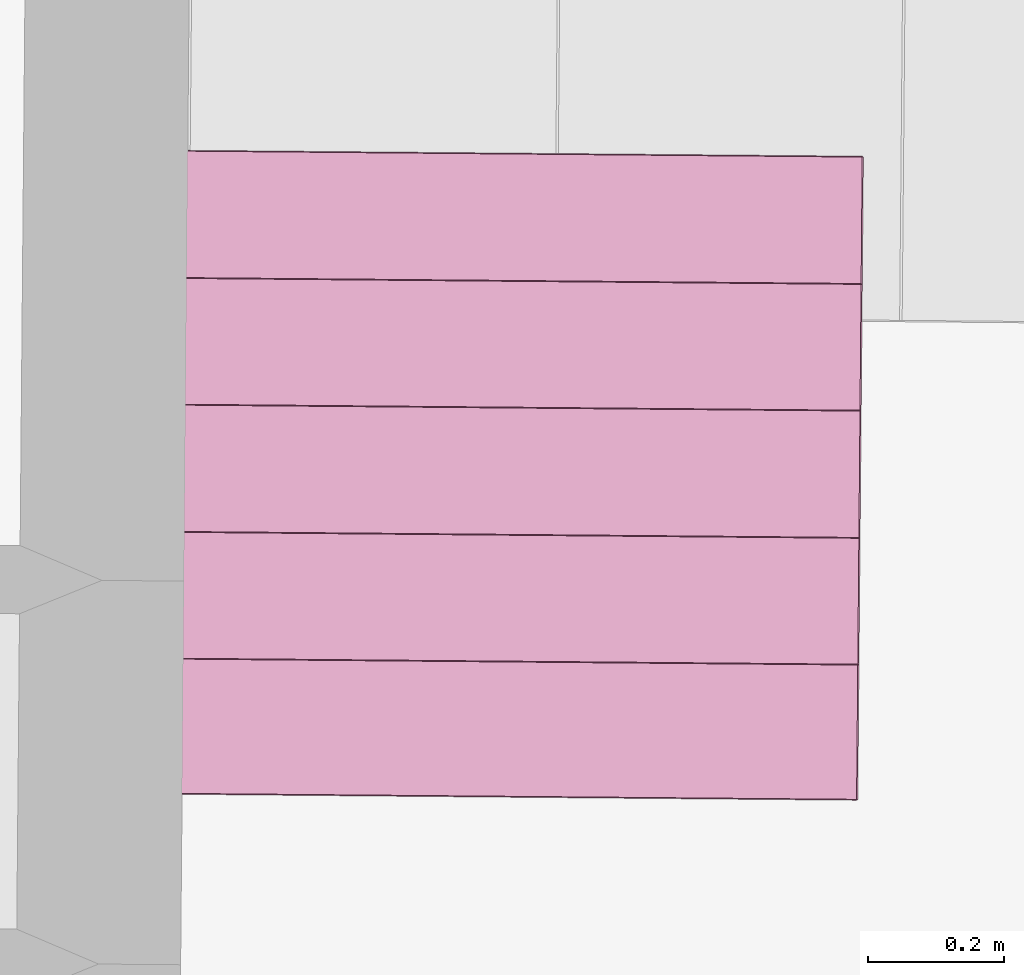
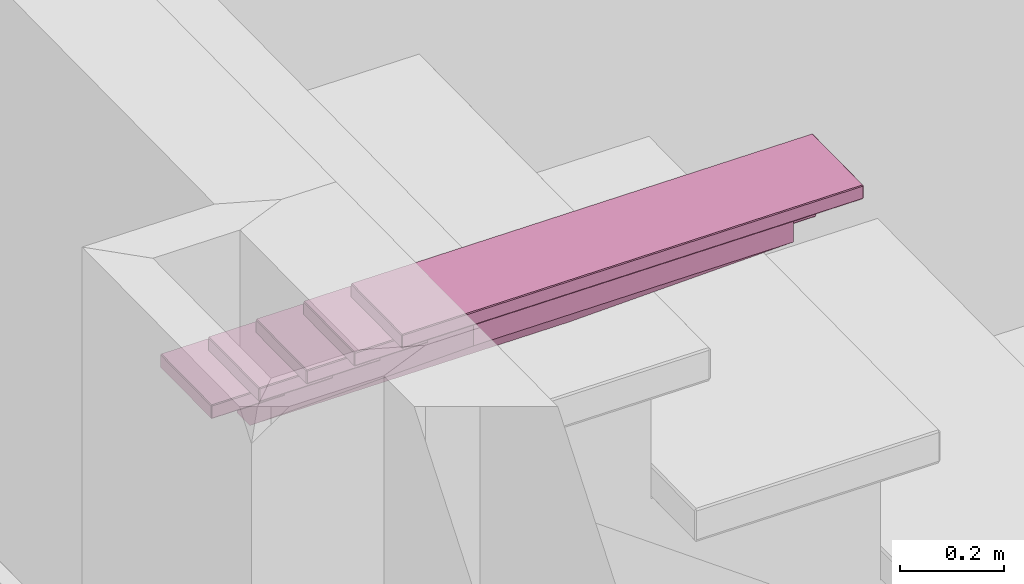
# One storey, part 4 of 7: 1 furniture element.
"""IFC4 building model written with IfcOpenShell, lengths in metres."""

from ifc_helpers import new_model, si_unit, direction, frame, origin_with_axes, place, context, project, spatial, polygons, type_object, element, save


model = new_model("IFC4")

# Units and contexts
model_context = context("Model", 3, precision=1e-05, world=origin_with_axes(), true_north=direction((-0.077, 0.997, 0.0)))
ifc_project = project(units=[si_unit("AREAUNIT", "SQUARE_METRE"), si_unit("LENGTHUNIT", "METRE")], contexts=[model_context])

# Site, building, storey, space
site_placement = place(None, origin_with_axes())
site = spatial("IfcSite", under=ifc_project, at=site_placement, Name="Site", CompositionType="ELEMENT")
building_placement = place(site_placement, origin_with_axes())
building = spatial("IfcBuilding", under=site, at=building_placement, Name="Building", CompositionType="ELEMENT")
storey_placement = place(building_placement, frame((0.0, 0.0, 2.86083245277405), z_axis=(0.0, 0.0, 1.0), x_axis=(1.0, 0.0, 0.0)))
storey = spatial("IfcBuildingStorey", under=building, at=storey_placement, Name="Story 1", CompositionType="ELEMENT", Elevation=2.86083245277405)
space_placement = place(storey_placement, frame((5.20392612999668, 0.0566384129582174, 0.0), z_axis=(0.0, 0.0, 1.0), x_axis=(1.0, 0.0, 0.0)))
space = spatial("IfcSpace", under=storey, at=space_placement, Name="011", CompositionType="ELEMENT")

# Furniture
furniture_type = type_object("IfcFurnitureType", Name="23cb4e9c-1382-41ba-935b-4a46ee92295f", AssemblyPlace="NOTDEFINED", PredefinedType="USERDEFINED")
furniture_placement = place(space_placement, frame((-3.17516283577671, 0.428728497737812, 1.96857523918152), z_axis=(0.0, 0.0, 0.99999999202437), x_axis=(0.00878513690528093, 0.999961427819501, 0.0)))
element("IfcFurniture", 1, at=furniture_placement, inside=space, type_object=furniture_type, Name="STAIRS", ObjectType="STAIRS", PredefinedType="USERDEFINED", context=model_context, shape_type="Tessellation", body=[
    polygons([(0.4721, 0.5092, -0.219), (0.4721, -0.5092, -0.219), (0.4721, 0.5092, -0.2475), (0.4721, -0.5092, -0.2475), (0.4721, 0.5092, -0.2475), (0.4721, -0.5092, -0.219), (0.4707, -0.511, -0.219), (0.2739, -0.511, -0.219), (0.4707, -0.511, -0.2475), (0.2739, -0.511, -0.2475), (0.4707, -0.511, -0.2475), (0.2739, -0.511, -0.219), (0.2726, -0.5092, -0.219), (0.2726, 0.5092, -0.219), (0.2726, -0.5092, -0.2475), (0.2726, 0.5092, -0.2475), (0.2726, -0.5092, -0.2475), (0.2726, 0.5092, -0.219), (0.2739, 0.511, -0.219), (0.4707, 0.511, -0.219), (0.2739, 0.511, -0.2475), (0.4707, 0.511, -0.2475), (0.2739, 0.511, -0.2475), (0.4707, 0.511, -0.219), (0.4707, -0.5092, -0.2497), (0.2739, -0.5092, -0.2497), (0.4707, 0.5092, -0.2497), (0.2739, 0.5092, -0.2497), (0.4707, 0.5092, -0.2497), (0.2739, -0.5092, -0.2497), (0.4707, -0.5092, -0.2168), (0.4707, 0.5092, -0.2168), (0.2739, -0.5092, -0.2168), (0.2739, 0.5092, -0.2168), (0.2739, -0.5092, -0.2168), (0.4707, 0.5092, -0.2168), (0.4707, 0.511, -0.2475), (0.4721, 0.5092, -0.2475), (0.4707, 0.5092, -0.2497), (0.4707, -0.511, -0.2475), (0.4707, -0.5092, -0.2497), (0.4721, -0.5092, -0.2475), (0.2726, -0.5092, -0.2475), (0.2739, -0.5092, -0.2497), (0.2739, -0.511, -0.2475), (0.2726, 0.5092, -0.2475), (0.2739, 0.511, -0.2475), (0.2739, 0.5092, -0.2497), (0.4707, 0.5092, -0.2168), (0.4721, 0.5092, -0.219), (0.4707, 0.511, -0.219), (0.4707, -0.5092, -0.2168), (0.4707, -0.511, -0.219), (0.4721, -0.5092, -0.219), (0.2739, -0.5092, -0.2168), (0.2726, -0.5092, -0.219), (0.2739, -0.511, -0.219), (0.2739, 0.5092, -0.2168), (0.2739, 0.511, -0.219), (0.2726, 0.5092, -0.219), (0.4707, 0.5092, -0.2497), (0.4721, 0.5092, -0.2475), (0.4707, -0.5092, -0.2497), (0.4721, -0.5092, -0.2475), (0.4707, -0.5092, -0.2497), (0.4721, 0.5092, -0.2475), (0.4707, -0.511, -0.2475), (0.4721, -0.5092, -0.2475), (0.4707, -0.511, -0.219), (0.4721, -0.5092, -0.219), (0.4707, -0.511, -0.219), (0.4721, -0.5092, -0.2475), (0.4707, -0.5092, -0.2168), (0.4721, -0.5092, -0.219), (0.4707, 0.5092, -0.2168), (0.4721, 0.5092, -0.219), (0.4707, 0.5092, -0.2168), (0.4721, -0.5092, -0.219), (0.4707, 0.511, -0.219), (0.4721, 0.5092, -0.219), (0.4707, 0.511, -0.2475), (0.4721, 0.5092, -0.2475), (0.4707, 0.511, -0.2475), (0.4721, 0.5092, -0.219), (0.4707, -0.5092, -0.2497), (0.4707, -0.511, -0.2475), (0.2739, -0.5092, -0.2497), (0.2739, -0.511, -0.2475), (0.2739, -0.5092, -0.2497), (0.4707, -0.511, -0.2475), (0.2726, -0.5092, -0.2475), (0.2739, -0.511, -0.2475), (0.2726, -0.5092, -0.219), (0.2739, -0.511, -0.219), (0.2726, -0.5092, -0.219), (0.2739, -0.511, -0.2475), (0.2739, -0.5092, -0.2168), (0.2739, -0.511, -0.219), (0.4707, -0.5092, -0.2168), (0.4707, -0.511, -0.219), (0.4707, -0.5092, -0.2168), (0.2739, -0.511, -0.219), (0.2739, -0.5092, -0.2497), (0.2726, -0.5092, -0.2475), (0.2739, 0.5092, -0.2497), (0.2726, 0.5092, -0.2475), (0.2739, 0.5092, -0.2497), (0.2726, -0.5092, -0.2475), (0.2739, 0.511, -0.2475), (0.2726, 0.5092, -0.2475), (0.2739, 0.511, -0.219), (0.2726, 0.5092, -0.219), (0.2739, 0.511, -0.219), (0.2726, 0.5092, -0.2475), (0.2739, 0.5092, -0.2168), (0.2726, 0.5092, -0.219), (0.2739, -0.5092, -0.2168), (0.2726, -0.5092, -0.219), (0.2739, -0.5092, -0.2168), (0.2726, 0.5092, -0.219), (0.2739, 0.5092, -0.2497), (0.2739, 0.511, -0.2475), (0.4707, 0.5092, -0.2497), (0.4707, 0.511, -0.2475), (0.4707, 0.5092, -0.2497), (0.2739, 0.511, -0.2475), (0.4707, 0.5092, -0.2168), (0.4707, 0.511, -0.219), (0.2739, 0.5092, -0.2168), (0.2739, 0.511, -0.219), (0.2739, 0.5092, -0.2168), (0.4707, 0.511, -0.219), (0.2854, 0.5092, -0.065), (0.2854, -0.5092, -0.065), (0.2854, 0.5092, -0.0935), (0.2854, -0.5092, -0.0935), (0.2854, 0.5092, -0.0935), (0.2854, -0.5092, -0.065), (0.2841, -0.511, -0.065), (0.0873, -0.511, -0.065), (0.2841, -0.511, -0.0935), (0.0873, -0.511, -0.0935), (0.2841, -0.511, -0.0935), (0.0873, -0.511, -0.065), (0.086, -0.5092, -0.065), (0.086, 0.5092, -0.065), (0.086, -0.5092, -0.0935), (0.086, 0.5092, -0.0935), (0.086, -0.5092, -0.0935), (0.086, 0.5092, -0.065), (0.0873, 0.511, -0.065), (0.2841, 0.511, -0.065), (0.0873, 0.511, -0.0935), (0.2841, 0.511, -0.0935), (0.0873, 0.511, -0.0935), (0.2841, 0.511, -0.065), (0.2841, -0.5092, -0.0957), (0.0873, -0.5092, -0.0957), (0.2841, 0.5092, -0.0957), (0.0873, 0.5092, -0.0957), (0.2841, 0.5092, -0.0957), (0.0873, -0.5092, -0.0957), (0.2841, -0.5092, -0.0628), (0.2841, 0.5092, -0.0628), (0.0873, -0.5092, -0.0628), (0.0873, 0.5092, -0.0628), (0.0873, -0.5092, -0.0628), (0.2841, 0.5092, -0.0628), (0.2841, 0.511, -0.0935), (0.2854, 0.5092, -0.0935), (0.2841, 0.5092, -0.0957), (0.2841, -0.511, -0.0935), (0.2841, -0.5092, -0.0957), (0.2854, -0.5092, -0.0935), (0.086, -0.5092, -0.0935), (0.0873, -0.5092, -0.0957), (0.0873, -0.511, -0.0935), (0.086, 0.5092, -0.0935), (0.0873, 0.511, -0.0935), (0.0873, 0.5092, -0.0957), (0.2841, 0.5092, -0.0628), (0.2854, 0.5092, -0.065), (0.2841, 0.511, -0.065), (0.2841, -0.5092, -0.0628), (0.2841, -0.511, -0.065), (0.2854, -0.5092, -0.065), (0.0873, -0.5092, -0.0628), (0.086, -0.5092, -0.065), (0.0873, -0.511, -0.065), (0.0873, 0.5092, -0.0628), (0.0873, 0.511, -0.065), (0.086, 0.5092, -0.065), (0.2841, 0.5092, -0.0957), (0.2854, 0.5092, -0.0935), (0.2841, -0.5092, -0.0957), (0.2854, -0.5092, -0.0935), (0.2841, -0.5092, -0.0957), (0.2854, 0.5092, -0.0935), (0.2841, -0.511, -0.0935), (0.2854, -0.5092, -0.0935), (0.2841, -0.511, -0.065), (0.2854, -0.5092, -0.065), (0.2841, -0.511, -0.065), (0.2854, -0.5092, -0.0935), (0.2841, -0.5092, -0.0628), (0.2854, -0.5092, -0.065), (0.2841, 0.5092, -0.0628), (0.2854, 0.5092, -0.065), (0.2841, 0.5092, -0.0628), (0.2854, -0.5092, -0.065), (0.2841, 0.511, -0.065), (0.2854, 0.5092, -0.065), (0.2841, 0.511, -0.0935), (0.2854, 0.5092, -0.0935), (0.2841, 0.511, -0.0935), (0.2854, 0.5092, -0.065), (0.2841, -0.5092, -0.0957), (0.2841, -0.511, -0.0935), (0.0873, -0.5092, -0.0957), (0.0873, -0.511, -0.0935), (0.0873, -0.5092, -0.0957), (0.2841, -0.511, -0.0935), (0.086, -0.5092, -0.0935), (0.0873, -0.511, -0.0935), (0.086, -0.5092, -0.065), (0.0873, -0.511, -0.065), (0.086, -0.5092, -0.065), (0.0873, -0.511, -0.0935), (0.0873, -0.5092, -0.0628), (0.0873, -0.511, -0.065), (0.2841, -0.5092, -0.0628), (0.2841, -0.511, -0.065), (0.2841, -0.5092, -0.0628), (0.0873, -0.511, -0.065), (0.0873, -0.5092, -0.0957), (0.086, -0.5092, -0.0935), (0.0873, 0.5092, -0.0957), (0.086, 0.5092, -0.0935), (0.0873, 0.5092, -0.0957), (0.086, -0.5092, -0.0935), (0.0873, 0.511, -0.0935), (0.086, 0.5092, -0.0935), (0.0873, 0.511, -0.065), (0.086, 0.5092, -0.065), (0.0873, 0.511, -0.065), (0.086, 0.5092, -0.0935), (0.0873, 0.5092, -0.0628), (0.086, 0.5092, -0.065), (0.0873, -0.5092, -0.0628), (0.086, -0.5092, -0.065), (0.0873, -0.5092, -0.0628), (0.086, 0.5092, -0.065), (0.0873, 0.5092, -0.0957), (0.0873, 0.511, -0.0935), (0.2841, 0.5092, -0.0957), (0.2841, 0.511, -0.0935), (0.2841, 0.5092, -0.0957), (0.0873, 0.511, -0.0935), (0.2841, 0.5092, -0.0628), (0.2841, 0.511, -0.065), (0.0873, 0.5092, -0.0628), (0.0873, 0.511, -0.065), (0.0873, 0.5092, -0.0628), (0.2841, 0.511, -0.065), (0.0997, 0.5092, 0.09), (0.0997, -0.5092, 0.09), (0.0997, 0.5092, 0.0615), (0.0997, -0.5092, 0.0615), (0.0997, 0.5092, 0.0615), (0.0997, -0.5092, 0.09), (0.0984, -0.511, 0.09), (-0.0984, -0.511, 0.09), (0.0984, -0.511, 0.0615), (-0.0984, -0.511, 0.0615), (0.0984, -0.511, 0.0615), (-0.0984, -0.511, 0.09), (-0.0998, -0.5092, 0.09), (-0.0998, 0.5092, 0.09), (-0.0998, -0.5092, 0.0615), (-0.0998, 0.5092, 0.0615), (-0.0998, -0.5092, 0.0615), (-0.0998, 0.5092, 0.09), (-0.0984, 0.511, 0.09), (0.0984, 0.511, 0.09), (-0.0984, 0.511, 0.0615), (0.0984, 0.511, 0.0615), (-0.0984, 0.511, 0.0615), (0.0984, 0.511, 0.09), (0.0984, -0.5092, 0.0593), (-0.0984, -0.5092, 0.0593), (0.0984, 0.5092, 0.0593), (-0.0984, 0.5092, 0.0593), (0.0984, 0.5092, 0.0593), (-0.0984, -0.5092, 0.0593), (0.0984, -0.5092, 0.0922), (0.0984, 0.5092, 0.0922), (-0.0984, -0.5092, 0.0922), (-0.0984, 0.5092, 0.0922), (-0.0984, -0.5092, 0.0922), (0.0984, 0.5092, 0.0922), (0.0984, 0.511, 0.0615), (0.0997, 0.5092, 0.0615), (0.0984, 0.5092, 0.0593), (0.0984, -0.511, 0.0615), (0.0984, -0.5092, 0.0593), (0.0997, -0.5092, 0.0615), (-0.0998, -0.5092, 0.0615), (-0.0984, -0.5092, 0.0593), (-0.0984, -0.511, 0.0615), (-0.0998, 0.5092, 0.0615), (-0.0984, 0.511, 0.0615), (-0.0984, 0.5092, 0.0593), (0.0984, 0.5092, 0.0922), (0.0997, 0.5092, 0.09), (0.0984, 0.511, 0.09), (0.0984, -0.5092, 0.0922), (0.0984, -0.511, 0.09), (0.0997, -0.5092, 0.09), (-0.0984, -0.5092, 0.0922), (-0.0998, -0.5092, 0.09), (-0.0984, -0.511, 0.09), (-0.0984, 0.5092, 0.0922), (-0.0984, 0.511, 0.09), (-0.0998, 0.5092, 0.09), (0.0984, 0.5092, 0.0593), (0.0997, 0.5092, 0.0615), (0.0984, -0.5092, 0.0593), (0.0997, -0.5092, 0.0615), (0.0984, -0.5092, 0.0593), (0.0997, 0.5092, 0.0615), (0.0984, -0.511, 0.0615), (0.0997, -0.5092, 0.0615), (0.0984, -0.511, 0.09), (0.0997, -0.5092, 0.09), (0.0984, -0.511, 0.09), (0.0997, -0.5092, 0.0615), (0.0984, -0.5092, 0.0922), (0.0997, -0.5092, 0.09), (0.0984, 0.5092, 0.0922), (0.0997, 0.5092, 0.09), (0.0984, 0.5092, 0.0922), (0.0997, -0.5092, 0.09), (0.0984, 0.511, 0.09), (0.0997, 0.5092, 0.09), (0.0984, 0.511, 0.0615), (0.0997, 0.5092, 0.0615), (0.0984, 0.511, 0.0615), (0.0997, 0.5092, 0.09), (0.0984, -0.5092, 0.0593), (0.0984, -0.511, 0.0615), (-0.0984, -0.5092, 0.0593), (-0.0984, -0.511, 0.0615), (-0.0984, -0.5092, 0.0593), (0.0984, -0.511, 0.0615), (-0.0998, -0.5092, 0.0615), (-0.0984, -0.511, 0.0615), (-0.0998, -0.5092, 0.09), (-0.0984, -0.511, 0.09), (-0.0998, -0.5092, 0.09), (-0.0984, -0.511, 0.0615), (-0.0984, -0.5092, 0.0922), (-0.0984, -0.511, 0.09), (0.0984, -0.5092, 0.0922), (0.0984, -0.511, 0.09), (0.0984, -0.5092, 0.0922), (-0.0984, -0.511, 0.09), (-0.0984, -0.5092, 0.0593), (-0.0998, -0.5092, 0.0615), (-0.0984, 0.5092, 0.0593), (-0.0998, 0.5092, 0.0615), (-0.0984, 0.5092, 0.0593), (-0.0998, -0.5092, 0.0615), (-0.0984, 0.511, 0.0615), (-0.0998, 0.5092, 0.0615), (-0.0984, 0.511, 0.09), (-0.0998, 0.5092, 0.09), (-0.0984, 0.511, 0.09), (-0.0998, 0.5092, 0.0615), (-0.0984, 0.5092, 0.0922), (-0.0998, 0.5092, 0.09), (-0.0984, -0.5092, 0.0922), (-0.0998, -0.5092, 0.09), (-0.0984, -0.5092, 0.0922), (-0.0998, 0.5092, 0.09), (-0.0984, 0.5092, 0.0593), (-0.0984, 0.511, 0.0615), (0.0984, 0.5092, 0.0593), (0.0984, 0.511, 0.0615), (0.0984, 0.5092, 0.0593), (-0.0984, 0.511, 0.0615), (0.0984, 0.5092, 0.0922), (0.0984, 0.511, 0.09), (-0.0984, 0.5092, 0.0922), (-0.0984, 0.511, 0.09), (-0.0984, 0.5092, 0.0922), (0.0984, 0.511, 0.09), (-0.0868, 0.5092, 0.2456), (-0.0868, -0.5092, 0.2456), (-0.0868, 0.5092, 0.2171), (-0.0868, -0.5092, 0.2171), (-0.0868, 0.5092, 0.2171), (-0.0868, -0.5092, 0.2456), (-0.0881, -0.511, 0.2456), (-0.2849, -0.511, 0.2456), (-0.0881, -0.511, 0.2171), (-0.2849, -0.511, 0.2171), (-0.0881, -0.511, 0.2171), (-0.2849, -0.511, 0.2456), (-0.2863, -0.5092, 0.2456), (-0.2863, 0.5092, 0.2456), (-0.2863, -0.5092, 0.2171), (-0.2863, 0.5092, 0.2171), (-0.2863, -0.5092, 0.2171), (-0.2863, 0.5092, 0.2456), (-0.2849, 0.511, 0.2456), (-0.0881, 0.511, 0.2456), (-0.2849, 0.511, 0.2171), (-0.0881, 0.511, 0.2171), (-0.2849, 0.511, 0.2171), (-0.0881, 0.511, 0.2456), (-0.0881, -0.5092, 0.2149), (-0.2849, -0.5092, 0.2149), (-0.0881, 0.5092, 0.2149), (-0.2849, 0.5092, 0.2149), (-0.0881, 0.5092, 0.2149), (-0.2849, -0.5092, 0.2149), (-0.0881, -0.5092, 0.2478), (-0.0881, 0.5092, 0.2478), (-0.2849, -0.5092, 0.2478), (-0.2849, 0.5092, 0.2478), (-0.2849, -0.5092, 0.2478), (-0.0881, 0.5092, 0.2478), (-0.0881, 0.511, 0.2171), (-0.0868, 0.5092, 0.2171), (-0.0881, 0.5092, 0.2149), (-0.0881, -0.511, 0.2171), (-0.0881, -0.5092, 0.2149), (-0.0868, -0.5092, 0.2171), (-0.2863, -0.5092, 0.2171), (-0.2849, -0.5092, 0.2149), (-0.2849, -0.511, 0.2171), (-0.2863, 0.5092, 0.2171), (-0.2849, 0.511, 0.2171), (-0.2849, 0.5092, 0.2149), (-0.0881, 0.5092, 0.2478), (-0.0868, 0.5092, 0.2456), (-0.0881, 0.511, 0.2456), (-0.0881, -0.5092, 0.2478), (-0.0881, -0.511, 0.2456), (-0.0868, -0.5092, 0.2456), (-0.2849, -0.5092, 0.2478), (-0.2863, -0.5092, 0.2456), (-0.2849, -0.511, 0.2456), (-0.2849, 0.5092, 0.2478), (-0.2849, 0.511, 0.2456), (-0.2863, 0.5092, 0.2456), (-0.0881, 0.5092, 0.2149), (-0.0868, 0.5092, 0.2171), (-0.0881, -0.5092, 0.2149), (-0.0868, -0.5092, 0.2171), (-0.0881, -0.5092, 0.2149), (-0.0868, 0.5092, 0.2171), (-0.0881, -0.511, 0.2171), (-0.0868, -0.5092, 0.2171), (-0.0881, -0.511, 0.2456), (-0.0868, -0.5092, 0.2456), (-0.0881, -0.511, 0.2456), (-0.0868, -0.5092, 0.2171), (-0.0881, -0.5092, 0.2478), (-0.0868, -0.5092, 0.2456), (-0.0881, 0.5092, 0.2478), (-0.0868, 0.5092, 0.2456), (-0.0881, 0.5092, 0.2478), (-0.0868, -0.5092, 0.2456), (-0.0881, 0.511, 0.2456), (-0.0868, 0.5092, 0.2456), (-0.0881, 0.511, 0.2171), (-0.0868, 0.5092, 0.2171), (-0.0881, 0.511, 0.2171), (-0.0868, 0.5092, 0.2456), (-0.0881, -0.5092, 0.2149), (-0.0881, -0.511, 0.2171), (-0.2849, -0.5092, 0.2149), (-0.2849, -0.511, 0.2171), (-0.2849, -0.5092, 0.2149), (-0.0881, -0.511, 0.2171), (-0.2863, -0.5092, 0.2171), (-0.2849, -0.511, 0.2171), (-0.2863, -0.5092, 0.2456), (-0.2849, -0.511, 0.2456), (-0.2863, -0.5092, 0.2456), (-0.2849, -0.511, 0.2171), (-0.2849, -0.5092, 0.2478), (-0.2849, -0.511, 0.2456), (-0.0881, -0.5092, 0.2478), (-0.0881, -0.511, 0.2456), (-0.0881, -0.5092, 0.2478), (-0.2849, -0.511, 0.2456), (-0.2849, -0.5092, 0.2149), (-0.2863, -0.5092, 0.2171), (-0.2849, 0.5092, 0.2149), (-0.2863, 0.5092, 0.2171), (-0.2849, 0.5092, 0.2149), (-0.2863, -0.5092, 0.2171), (-0.2849, 0.511, 0.2171), (-0.2863, 0.5092, 0.2171), (-0.2849, 0.511, 0.2456), (-0.2863, 0.5092, 0.2456), (-0.2849, 0.511, 0.2456), (-0.2863, 0.5092, 0.2171), (-0.2849, 0.5092, 0.2478), (-0.2863, 0.5092, 0.2456), (-0.2849, -0.5092, 0.2478), (-0.2863, -0.5092, 0.2456), (-0.2849, -0.5092, 0.2478), (-0.2863, 0.5092, 0.2456), (-0.2849, 0.5092, 0.2149), (-0.2849, 0.511, 0.2171), (-0.0881, 0.5092, 0.2149), (-0.0881, 0.511, 0.2171), (-0.0881, 0.5092, 0.2149), (-0.2849, 0.511, 0.2171), (-0.0881, 0.5092, 0.2478), (-0.0881, 0.511, 0.2456), (-0.2849, 0.5092, 0.2478), (-0.2849, 0.511, 0.2456), (-0.2849, 0.5092, 0.2478), (-0.0881, 0.511, 0.2456), (-0.2726, 0.5092, 0.4006), (-0.2726, -0.5092, 0.4006), (-0.2726, 0.5092, 0.3721), (-0.2726, -0.5092, 0.3721), (-0.2726, 0.5092, 0.3721), (-0.2726, -0.5092, 0.4006), (-0.2739, -0.511, 0.4006), (-0.4707, -0.511, 0.4006), (-0.2739, -0.511, 0.3721), (-0.4707, -0.511, 0.3721), (-0.2739, -0.511, 0.3721), (-0.4707, -0.511, 0.4006), (-0.4721, -0.5092, 0.4006), (-0.4721, 0.5092, 0.4006), (-0.4721, -0.5092, 0.3721), (-0.4721, 0.5092, 0.3721), (-0.4721, -0.5092, 0.3721), (-0.4721, 0.5092, 0.4006), (-0.4707, 0.511, 0.4006), (-0.2739, 0.511, 0.4006), (-0.4707, 0.511, 0.3721), (-0.2739, 0.511, 0.3721), (-0.4707, 0.511, 0.3721), (-0.2739, 0.511, 0.4006), (-0.2739, -0.5092, 0.3699), (-0.4707, -0.5092, 0.3699), (-0.2739, 0.5092, 0.3699), (-0.4707, 0.5092, 0.3699), (-0.2739, 0.5092, 0.3699), (-0.4707, -0.5092, 0.3699), (-0.2739, -0.5092, 0.4028), (-0.2739, 0.5092, 0.4028), (-0.4707, -0.5092, 0.4028), (-0.4707, 0.5092, 0.4028), (-0.4707, -0.5092, 0.4028), (-0.2739, 0.5092, 0.4028), (-0.2739, 0.511, 0.3721), (-0.2726, 0.5092, 0.3721), (-0.2739, 0.5092, 0.3699), (-0.2739, -0.511, 0.3721), (-0.2739, -0.5092, 0.3699), (-0.2726, -0.5092, 0.3721), (-0.4721, -0.5092, 0.3721), (-0.4707, -0.5092, 0.3699), (-0.4707, -0.511, 0.3721), (-0.4721, 0.5092, 0.3721), (-0.4707, 0.511, 0.3721), (-0.4707, 0.5092, 0.3699), (-0.2739, 0.5092, 0.4028), (-0.2726, 0.5092, 0.4006), (-0.2739, 0.511, 0.4006), (-0.2739, -0.5092, 0.4028), (-0.2739, -0.511, 0.4006), (-0.2726, -0.5092, 0.4006), (-0.4707, -0.5092, 0.4028), (-0.4721, -0.5092, 0.4006), (-0.4707, -0.511, 0.4006), (-0.4707, 0.5092, 0.4028), (-0.4707, 0.511, 0.4006), (-0.4721, 0.5092, 0.4006), (-0.2739, 0.5092, 0.3699), (-0.2726, 0.5092, 0.3721), (-0.2739, -0.5092, 0.3699), (-0.2726, -0.5092, 0.3721), (-0.2739, -0.5092, 0.3699), (-0.2726, 0.5092, 0.3721), (-0.2739, -0.511, 0.3721), (-0.2726, -0.5092, 0.3721), (-0.2739, -0.511, 0.4006), (-0.2726, -0.5092, 0.4006), (-0.2739, -0.511, 0.4006), (-0.2726, -0.5092, 0.3721), (-0.2739, -0.5092, 0.4028), (-0.2726, -0.5092, 0.4006), (-0.2739, 0.5092, 0.4028), (-0.2726, 0.5092, 0.4006), (-0.2739, 0.5092, 0.4028), (-0.2726, -0.5092, 0.4006), (-0.2739, 0.511, 0.4006), (-0.2726, 0.5092, 0.4006), (-0.2739, 0.511, 0.3721), (-0.2726, 0.5092, 0.3721), (-0.2739, 0.511, 0.3721), (-0.2726, 0.5092, 0.4006), (-0.2739, -0.5092, 0.3699), (-0.2739, -0.511, 0.3721), (-0.4707, -0.5092, 0.3699), (-0.4707, -0.511, 0.3721), (-0.4707, -0.5092, 0.3699), (-0.2739, -0.511, 0.3721), (-0.4721, -0.5092, 0.3721), (-0.4707, -0.511, 0.3721), (-0.4721, -0.5092, 0.4006), (-0.4707, -0.511, 0.4006), (-0.4721, -0.5092, 0.4006), (-0.4707, -0.511, 0.3721), (-0.4707, -0.5092, 0.4028), (-0.4707, -0.511, 0.4006), (-0.2739, -0.5092, 0.4028), (-0.2739, -0.511, 0.4006), (-0.2739, -0.5092, 0.4028), (-0.4707, -0.511, 0.4006), (-0.4707, -0.5092, 0.3699), (-0.4721, -0.5092, 0.3721), (-0.4707, 0.5092, 0.3699), (-0.4721, 0.5092, 0.3721), (-0.4707, 0.5092, 0.3699), (-0.4721, -0.5092, 0.3721), (-0.4707, 0.511, 0.3721), (-0.4721, 0.5092, 0.3721), (-0.4707, 0.511, 0.4006), (-0.4721, 0.5092, 0.4006), (-0.4707, 0.511, 0.4006), (-0.4721, 0.5092, 0.3721), (-0.4707, 0.5092, 0.4028), (-0.4721, 0.5092, 0.4006), (-0.4707, -0.5092, 0.4028), (-0.4721, -0.5092, 0.4006), (-0.4707, -0.5092, 0.4028), (-0.4721, 0.5092, 0.4006), (-0.4707, 0.5092, 0.3699), (-0.4707, 0.511, 0.3721), (-0.2739, 0.5092, 0.3699), (-0.2739, 0.511, 0.3721), (-0.2739, 0.5092, 0.3699), (-0.4707, 0.511, 0.3721), (-0.2739, 0.5092, 0.4028), (-0.2739, 0.511, 0.4006), (-0.4707, 0.5092, 0.4028), (-0.4707, 0.511, 0.4006), (-0.4707, 0.5092, 0.4028), (-0.2739, 0.511, 0.4006), (0.4583, 0.3046, -0.2495), (0.4583, 0.3046, -0.4028), (0.4583, 0.3489, -0.2495), (0.4583, 0.3489, -0.4028), (0.4583, 0.3489, -0.2495), (0.4583, 0.3046, -0.4028), (0.2721, 0.3046, -0.2495), (0.4583, 0.3046, -0.2495), (0.2721, 0.3489, -0.2495), (0.4583, 0.3489, -0.2495), (0.2721, 0.3489, -0.2495), (0.4583, 0.3046, -0.2495), (0.2721, 0.3046, -0.0949), (0.2721, 0.3046, -0.2495), (0.2721, 0.3489, -0.0949), (0.2721, 0.3489, -0.2495), (0.2721, 0.3489, -0.0949), (0.2721, 0.3046, -0.2495), (0.086, 0.3046, -0.0949), (0.2721, 0.3046, -0.0949), (0.086, 0.3489, -0.0949), (0.2721, 0.3489, -0.0949), (0.086, 0.3489, -0.0949), (0.2721, 0.3046, -0.0949), (0.086, 0.3046, 0.0597), (0.086, 0.3046, -0.0949), (0.086, 0.3489, 0.0597), (0.086, 0.3489, -0.0949), (0.086, 0.3489, 0.0597), (0.086, 0.3046, -0.0949), (-0.1002, 0.3046, 0.0597), (0.086, 0.3046, 0.0597), (-0.1002, 0.3489, 0.0597), (0.086, 0.3489, 0.0597), (-0.1002, 0.3489, 0.0597), (0.086, 0.3046, 0.0597), (-0.1002, 0.3046, 0.2144), (-0.1002, 0.3046, 0.0597), (-0.1002, 0.3489, 0.2144), (-0.1002, 0.3489, 0.0597), (-0.1002, 0.3489, 0.2144), (-0.1002, 0.3046, 0.0597), (-0.2863, 0.3046, 0.2144), (-0.1002, 0.3046, 0.2144), (-0.2863, 0.3489, 0.2144), (-0.1002, 0.3489, 0.2144), (-0.2863, 0.3489, 0.2144), (-0.1002, 0.3046, 0.2144), (-0.2863, 0.3046, 0.369), (-0.2863, 0.3046, 0.2144), (-0.2863, 0.3489, 0.369), (-0.2863, 0.3489, 0.2144), (-0.2863, 0.3489, 0.369), (-0.2863, 0.3046, 0.2144), (-0.4658, 0.3046, 0.369), (-0.2863, 0.3046, 0.369), (-0.4658, 0.3489, 0.369), (-0.2863, 0.3489, 0.369), (-0.4658, 0.3489, 0.369), (-0.2863, 0.3046, 0.369), (0.4583, -0.3587, -0.2495), (0.4583, -0.3587, -0.4028), (0.4583, -0.3144, -0.2495), (0.4583, -0.3144, -0.4028), (0.4583, -0.3144, -0.2495), (0.4583, -0.3587, -0.4028), (0.2721, -0.3587, -0.2495), (0.4583, -0.3587, -0.2495), (0.2721, -0.3144, -0.2495), (0.4583, -0.3144, -0.2495), (0.2721, -0.3144, -0.2495), (0.4583, -0.3587, -0.2495), (0.2721, -0.3587, -0.0949), (0.2721, -0.3587, -0.2495), (0.2721, -0.3144, -0.0949), (0.2721, -0.3144, -0.2495), (0.2721, -0.3144, -0.0949), (0.2721, -0.3587, -0.2495), (0.086, -0.3587, -0.0949), (0.2721, -0.3587, -0.0949), (0.086, -0.3144, -0.0949), (0.2721, -0.3144, -0.0949), (0.086, -0.3144, -0.0949), (0.2721, -0.3587, -0.0949), (0.086, -0.3587, 0.0597), (0.086, -0.3587, -0.0949), (0.086, -0.3144, 0.0597), (0.086, -0.3144, -0.0949), (0.086, -0.3144, 0.0597), (0.086, -0.3587, -0.0949), (-0.1002, -0.3587, 0.0597), (0.086, -0.3587, 0.0597), (-0.1002, -0.3144, 0.0597), (0.086, -0.3144, 0.0597), (-0.1002, -0.3144, 0.0597), (0.086, -0.3587, 0.0597), (-0.1002, -0.3587, 0.2144), (-0.1002, -0.3587, 0.0597), (-0.1002, -0.3144, 0.2144), (-0.1002, -0.3144, 0.0597), (-0.1002, -0.3144, 0.2144), (-0.1002, -0.3587, 0.0597), (-0.2863, -0.3587, 0.2144), (-0.1002, -0.3587, 0.2144), (-0.2863, -0.3144, 0.2144), (-0.1002, -0.3144, 0.2144), (-0.2863, -0.3144, 0.2144), (-0.1002, -0.3587, 0.2144), (-0.2863, -0.3587, 0.369), (-0.2863, -0.3587, 0.2144), (-0.2863, -0.3144, 0.369), (-0.2863, -0.3144, 0.2144), (-0.2863, -0.3144, 0.369), (-0.2863, -0.3587, 0.2144), (-0.4658, -0.3587, 0.369), (-0.2863, -0.3587, 0.369), (-0.4658, -0.3144, 0.369), (-0.2863, -0.3144, 0.369), (-0.4658, -0.3144, 0.369), (-0.2863, -0.3587, 0.369), (0.4083, 0.3489, -0.4028), (0.4083, 0.3046, -0.4028), (-0.4658, 0.3489, 0.3173), (-0.4658, 0.3046, 0.3173), (-0.4658, 0.3489, 0.3173), (0.4083, 0.3046, -0.4028), (0.4083, -0.3144, -0.4028), (0.4083, -0.3587, -0.4028), (-0.4658, -0.3144, 0.3173), (-0.4658, -0.3587, 0.3173), (-0.4658, -0.3144, 0.3173), (0.4083, -0.3587, -0.4028), (0.4083, 0.3489, -0.4028), (0.4583, 0.3489, -0.4028), (0.4083, 0.3046, -0.4028), (0.4583, 0.3046, -0.4028), (0.4083, 0.3046, -0.4028), (0.4583, 0.3489, -0.4028), (-0.4658, 0.3489, 0.3173), (-0.4658, 0.3046, 0.3173), (-0.4658, 0.3489, 0.369), (-0.4658, 0.3046, 0.369), (-0.4658, 0.3489, 0.369), (-0.4658, 0.3046, 0.3173), (0.4083, -0.3587, -0.4028), (0.4083, -0.3144, -0.4028), (0.4583, -0.3587, -0.4028), (0.4583, -0.3144, -0.4028), (0.4583, -0.3587, -0.4028), (0.4083, -0.3144, -0.4028), (-0.4658, -0.3144, 0.3173), (-0.4658, -0.3587, 0.3173), (-0.4658, -0.3144, 0.369), (-0.4658, -0.3587, 0.369), (-0.4658, -0.3144, 0.369), (-0.4658, -0.3587, 0.3173), (-0.2863, 0.3046, 0.369), (-0.4658, 0.3046, 0.369), (-0.2863, -0.3144, 0.369), (-0.4658, -0.3144, 0.369), (-0.2863, -0.3144, 0.369), (-0.4658, 0.3046, 0.369), (-0.2863, 0.3046, 0.2144), (-0.2863, 0.3046, 0.369), (-0.2863, -0.3144, 0.2144), (-0.2863, -0.3144, 0.369), (-0.2863, -0.3144, 0.2144), (-0.2863, 0.3046, 0.369), (-0.1002, 0.3046, 0.2144), (-0.2863, 0.3046, 0.2144), (-0.1002, -0.3144, 0.2144), (-0.2863, -0.3144, 0.2144), (-0.1002, -0.3144, 0.2144), (-0.2863, 0.3046, 0.2144), (-0.1002, 0.3046, 0.0597), (-0.1002, 0.3046, 0.2144), (-0.1002, -0.3144, 0.0597), (-0.1002, -0.3144, 0.2144), (-0.1002, -0.3144, 0.0597), (-0.1002, 0.3046, 0.2144), (0.086, 0.3046, 0.0597), (-0.1002, 0.3046, 0.0597), (0.086, -0.3144, 0.0597), (-0.1002, -0.3144, 0.0597), (0.086, -0.3144, 0.0597), (-0.1002, 0.3046, 0.0597), (0.086, 0.3046, -0.0949), (0.086, 0.3046, 0.0597), (0.086, -0.3144, -0.0949), (0.086, -0.3144, 0.0597), (0.086, -0.3144, -0.0949), (0.086, 0.3046, 0.0597), (0.2721, 0.3046, -0.0949), (0.086, 0.3046, -0.0949), (0.2721, -0.3144, -0.0949), (0.086, -0.3144, -0.0949), (0.2721, -0.3144, -0.0949), (0.086, 0.3046, -0.0949), (0.2721, 0.3046, -0.2495), (0.2721, 0.3046, -0.0949), (0.2721, -0.3144, -0.2495), (0.2721, -0.3144, -0.0949), (0.2721, -0.3144, -0.2495), (0.2721, 0.3046, -0.0949), (0.4583, 0.3046, -0.2495), (0.2721, 0.3046, -0.2495), (0.4583, -0.3144, -0.2495), (0.2721, -0.3144, -0.2495), (0.4583, -0.3144, -0.2495), (0.2721, 0.3046, -0.2495), (0.4583, 0.3046, -0.4028), (0.4583, 0.3046, -0.2495), (0.4583, -0.3144, -0.4028), (0.4583, -0.3144, -0.2495), (0.4583, -0.3144, -0.4028), (0.4583, 0.3046, -0.2495), (0.4083, -0.3144, -0.4028), (0.4083, 0.3046, -0.4028), (0.4583, -0.3144, -0.4028), (0.4583, 0.3046, -0.4028), (0.4583, -0.3144, -0.4028), (0.4083, 0.3046, -0.4028), (-0.4658, 0.3046, 0.3173), (0.4083, 0.3046, -0.4028), (-0.4658, -0.3144, 0.3173), (0.4083, -0.3144, -0.4028), (-0.4658, -0.3144, 0.3173), (0.4083, 0.3046, -0.4028), (-0.4658, -0.3587, 0.369), (-0.4658, -0.3587, 0.3173), (-0.2863, -0.3587, 0.369), (-0.2863, -0.3587, 0.369), (-0.4658, -0.3587, 0.3173), (-0.2863, -0.3587, 0.2144), (-0.1002, -0.3587, 0.2144), (-0.2863, -0.3587, 0.2144), (-0.1002, -0.3587, 0.0597), (-0.2863, -0.3587, 0.2144), (-0.4658, -0.3587, 0.3173), (-0.1002, -0.3587, 0.0597), (0.086, -0.3587, 0.0597), (-0.1002, -0.3587, 0.0597), (0.086, -0.3587, -0.0949), (0.2721, -0.3587, -0.0949), (0.086, -0.3587, -0.0949), (0.2721, -0.3587, -0.2495), (0.086, -0.3587, -0.0949), (-0.1002, -0.3587, 0.0597), (0.2721, -0.3587, -0.2495), (-0.1002, -0.3587, 0.0597), (-0.4658, -0.3587, 0.3173), (0.2721, -0.3587, -0.2495), (0.4583, -0.3587, -0.2495), (0.2721, -0.3587, -0.2495), (0.4583, -0.3587, -0.4028), (0.2721, -0.3587, -0.2495), (-0.4658, -0.3587, 0.3173), (0.4583, -0.3587, -0.4028), (0.4583, -0.3587, -0.4028), (-0.4658, -0.3587, 0.3173), (0.4083, -0.3587, -0.4028), (0.4583, 0.3489, -0.4028), (0.4083, 0.3489, -0.4028), (0.4583, 0.3489, -0.2495), (0.4583, 0.3489, -0.2495), (0.4083, 0.3489, -0.4028), (0.2721, 0.3489, -0.2495), (0.2721, 0.3489, -0.0949), (0.2721, 0.3489, -0.2495), (0.086, 0.3489, -0.0949), (0.2721, 0.3489, -0.2495), (0.4083, 0.3489, -0.4028), (0.086, 0.3489, -0.0949), (0.086, 0.3489, 0.0597), (0.086, 0.3489, -0.0949), (-0.1002, 0.3489, 0.0597), (0.086, 0.3489, -0.0949), (0.4083, 0.3489, -0.4028), (-0.1002, 0.3489, 0.0597), (-0.1002, 0.3489, 0.2144), (-0.1002, 0.3489, 0.0597), (-0.2863, 0.3489, 0.2144), (-0.1002, 0.3489, 0.0597), (0.4083, 0.3489, -0.4028), (-0.2863, 0.3489, 0.2144), (-0.2863, 0.3489, 0.369), (-0.2863, 0.3489, 0.2144), (-0.4658, 0.3489, 0.369), (-0.2863, 0.3489, 0.2144), (0.4083, 0.3489, -0.4028), (-0.4658, 0.3489, 0.369), (-0.4658, 0.3489, 0.369), (0.4083, 0.3489, -0.4028), (-0.4658, 0.3489, 0.3173), (-0.4658, -0.3144, 0.369), (-0.4658, 0.3046, 0.369), (-0.4658, -0.3144, 0.3173), (-0.4658, 0.3046, 0.3173), (-0.4658, -0.3144, 0.3173), (-0.4658, 0.3046, 0.369)], [[[1, 2, 3]], [[4, 5, 6]], [[7, 8, 9]], [[10, 11, 12]], [[13, 14, 15]], [[16, 17, 18]], [[19, 20, 21]], [[22, 23, 24]], [[25, 26, 27]], [[28, 29, 30]], [[31, 32, 33]], [[34, 35, 36]], [[37, 38, 39]], [[40, 41, 42]], [[43, 44, 45]], [[46, 47, 48]], [[49, 50, 51]], [[52, 53, 54]], [[55, 56, 57]], [[58, 59, 60]], [[61, 62, 63]], [[64, 65, 66]], [[67, 68, 69]], [[70, 71, 72]], [[73, 74, 75]], [[76, 77, 78]], [[79, 80, 81]], [[82, 83, 84]], [[85, 86, 87]], [[88, 89, 90]], [[91, 92, 93]], [[94, 95, 96]], [[97, 98, 99]], [[100, 101, 102]], [[103, 104, 105]], [[106, 107, 108]], [[109, 110, 111]], [[112, 113, 114]], [[115, 116, 117]], [[118, 119, 120]], [[121, 122, 123]], [[124, 125, 126]], [[127, 128, 129]], [[130, 131, 132]], [[133, 134, 135]], [[136, 137, 138]], [[139, 140, 141]], [[142, 143, 144]], [[145, 146, 147]], [[148, 149, 150]], [[151, 152, 153]], [[154, 155, 156]], [[157, 158, 159]], [[160, 161, 162]], [[163, 164, 165]], [[166, 167, 168]], [[169, 170, 171]], [[172, 173, 174]], [[175, 176, 177]], [[178, 179, 180]], [[181, 182, 183]], [[184, 185, 186]], [[187, 188, 189]], [[190, 191, 192]], [[193, 194, 195]], [[196, 197, 198]], [[199, 200, 201]], [[202, 203, 204]], [[205, 206, 207]], [[208, 209, 210]], [[211, 212, 213]], [[214, 215, 216]], [[217, 218, 219]], [[220, 221, 222]], [[223, 224, 225]], [[226, 227, 228]], [[229, 230, 231]], [[232, 233, 234]], [[235, 236, 237]], [[238, 239, 240]], [[241, 242, 243]], [[244, 245, 246]], [[247, 248, 249]], [[250, 251, 252]], [[253, 254, 255]], [[256, 257, 258]], [[259, 260, 261]], [[262, 263, 264]], [[265, 266, 267]], [[268, 269, 270]], [[271, 272, 273]], [[274, 275, 276]], [[277, 278, 279]], [[280, 281, 282]], [[283, 284, 285]], [[286, 287, 288]], [[289, 290, 291]], [[292, 293, 294]], [[295, 296, 297]], [[298, 299, 300]], [[301, 302, 303]], [[304, 305, 306]], [[307, 308, 309]], [[310, 311, 312]], [[313, 314, 315]], [[316, 317, 318]], [[319, 320, 321]], [[322, 323, 324]], [[325, 326, 327]], [[328, 329, 330]], [[331, 332, 333]], [[334, 335, 336]], [[337, 338, 339]], [[340, 341, 342]], [[343, 344, 345]], [[346, 347, 348]], [[349, 350, 351]], [[352, 353, 354]], [[355, 356, 357]], [[358, 359, 360]], [[361, 362, 363]], [[364, 365, 366]], [[367, 368, 369]], [[370, 371, 372]], [[373, 374, 375]], [[376, 377, 378]], [[379, 380, 381]], [[382, 383, 384]], [[385, 386, 387]], [[388, 389, 390]], [[391, 392, 393]], [[394, 395, 396]], [[397, 398, 399]], [[400, 401, 402]], [[403, 404, 405]], [[406, 407, 408]], [[409, 410, 411]], [[412, 413, 414]], [[415, 416, 417]], [[418, 419, 420]], [[421, 422, 423]], [[424, 425, 426]], [[427, 428, 429]], [[430, 431, 432]], [[433, 434, 435]], [[436, 437, 438]], [[439, 440, 441]], [[442, 443, 444]], [[445, 446, 447]], [[448, 449, 450]], [[451, 452, 453]], [[454, 455, 456]], [[457, 458, 459]], [[460, 461, 462]], [[463, 464, 465]], [[466, 467, 468]], [[469, 470, 471]], [[472, 473, 474]], [[475, 476, 477]], [[478, 479, 480]], [[481, 482, 483]], [[484, 485, 486]], [[487, 488, 489]], [[490, 491, 492]], [[493, 494, 495]], [[496, 497, 498]], [[499, 500, 501]], [[502, 503, 504]], [[505, 506, 507]], [[508, 509, 510]], [[511, 512, 513]], [[514, 515, 516]], [[517, 518, 519]], [[520, 521, 522]], [[523, 524, 525]], [[526, 527, 528]], [[529, 530, 531]], [[532, 533, 534]], [[535, 536, 537]], [[538, 539, 540]], [[541, 542, 543]], [[544, 545, 546]], [[547, 548, 549]], [[550, 551, 552]], [[553, 554, 555]], [[556, 557, 558]], [[559, 560, 561]], [[562, 563, 564]], [[565, 566, 567]], [[568, 569, 570]], [[571, 572, 573]], [[574, 575, 576]], [[577, 578, 579]], [[580, 581, 582]], [[583, 584, 585]], [[586, 587, 588]], [[589, 590, 591]], [[592, 593, 594]], [[595, 596, 597]], [[598, 599, 600]], [[601, 602, 603]], [[604, 605, 606]], [[607, 608, 609]], [[610, 611, 612]], [[613, 614, 615]], [[616, 617, 618]], [[619, 620, 621]], [[622, 623, 624]], [[625, 626, 627]], [[628, 629, 630]], [[631, 632, 633]], [[634, 635, 636]], [[637, 638, 639]], [[640, 641, 642]], [[643, 644, 645]], [[646, 647, 648]], [[649, 650, 651]], [[652, 653, 654]], [[655, 656, 657]], [[658, 659, 660]], [[661, 662, 663]], [[664, 665, 666]], [[667, 668, 669]], [[670, 671, 672]], [[673, 674, 675]], [[676, 677, 678]], [[679, 680, 681]], [[682, 683, 684]], [[685, 686, 687]], [[688, 689, 690]], [[691, 692, 693]], [[694, 695, 696]], [[697, 698, 699]], [[700, 701, 702]], [[703, 704, 705]], [[706, 707, 708]], [[709, 710, 711]], [[712, 713, 714]], [[715, 716, 717]], [[718, 719, 720]], [[721, 722, 723]], [[724, 725, 726]], [[727, 728, 729]], [[730, 731, 732]], [[733, 734, 735]], [[736, 737, 738]], [[739, 740, 741]], [[742, 743, 744]], [[745, 746, 747]], [[748, 749, 750]], [[751, 752, 753]], [[754, 755, 756]], [[757, 758, 759]], [[760, 761, 762]], [[763, 764, 765]], [[766, 767, 768]], [[769, 770, 771]], [[772, 773, 774]], [[775, 776, 777]], [[778, 779, 780]], [[781, 782, 783]], [[784, 785, 786]], [[787, 788, 789]], [[790, 791, 792]], [[793, 794, 795]], [[796, 797, 798]], [[799, 800, 801]], [[802, 803, 804]], [[805, 806, 807]], [[808, 809, 810]], [[811, 812, 813]], [[814, 815, 816]], [[817, 818, 819]], [[820, 821, 822]], [[823, 824, 825]], [[826, 827, 828]], [[829, 830, 831]], [[832, 833, 834]], [[835, 836, 837]], [[838, 839, 840]], [[841, 842, 843]], [[844, 845, 846]], [[847, 848, 849]], [[850, 851, 852]], [[853, 854, 855]], [[856, 857, 858]], [[859, 860, 861]], [[862, 863, 864]], [[865, 866, 867]], [[868, 869, 870]], [[871, 872, 873]], [[874, 875, 876]], [[877, 878, 879]], [[880, 881, 882]], [[883, 884, 885]], [[886, 887, 888]], [[889, 890, 891]], [[892, 893, 894]], [[895, 896, 897]], [[898, 899, 900]], [[901, 902, 903]], [[904, 905, 906]], [[907, 908, 909]], [[910, 911, 912]], [[913, 914, 915]], [[916, 917, 918]], [[919, 920, 921]], [[922, 923, 924]], [[925, 926, 927]], [[928, 929, 930]], [[931, 932, 933]], [[934, 935, 936]], [[937, 938, 939]], [[940, 941, 942]], [[943, 944, 945]], [[946, 947, 948]], [[949, 950, 951]], [[952, 953, 954]], [[955, 956, 957]], [[958, 959, 960]]]),
])

save(model, "model.ifc")
